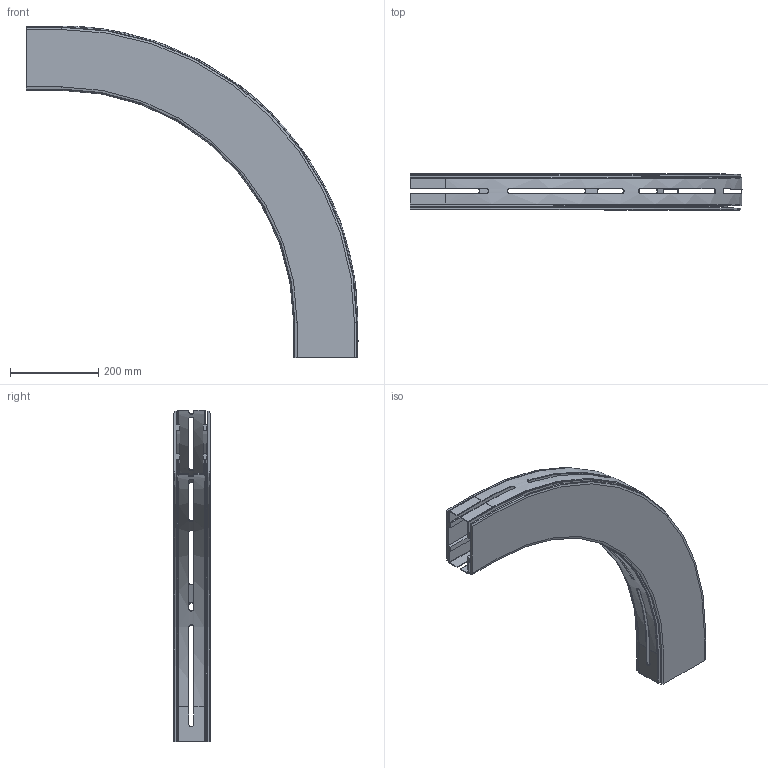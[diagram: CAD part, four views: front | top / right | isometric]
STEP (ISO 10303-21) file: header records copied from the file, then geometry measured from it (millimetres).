
FILE_DESCRIPTION((''),'2;1');
FILE_NAME('C:\Vault Klient\Projekt\Koncept konstruktion\Serie 540 Balk\540-5360.stp','2010-11-25T08:07:58',('Mathias'),(''),'Autodesk Inventor 2011','Autodesk Inventor 2011','');
FILE_SCHEMA(('AUTOMOTIVE_DESIGN { 1 0 10303 214 1 1 1 1 }'));
Length unit declared in the file: millimetre
Products named in the file (1): 540-5360
Bounding box: 753 x 82 x 753 mm (x, y, z)
Volume: 2488009.6 mm3; surface area: 1279456 mm2
Topology: 2 solids, 2 shells, 179 faces, 506 edges, 332 vertices
Faces by surface type: plane 115, cylinder 28, bspline 26, cone 6, torus 4
Entity records: 6558 total; most frequent: CARTESIAN_POINT 1896, ORIENTED_EDGE 1012, DIRECTION 862, EDGE_CURVE 506, VECTOR 354, LINE 354, VERTEX_POINT 332, AXIS2_PLACEMENT_3D 254
